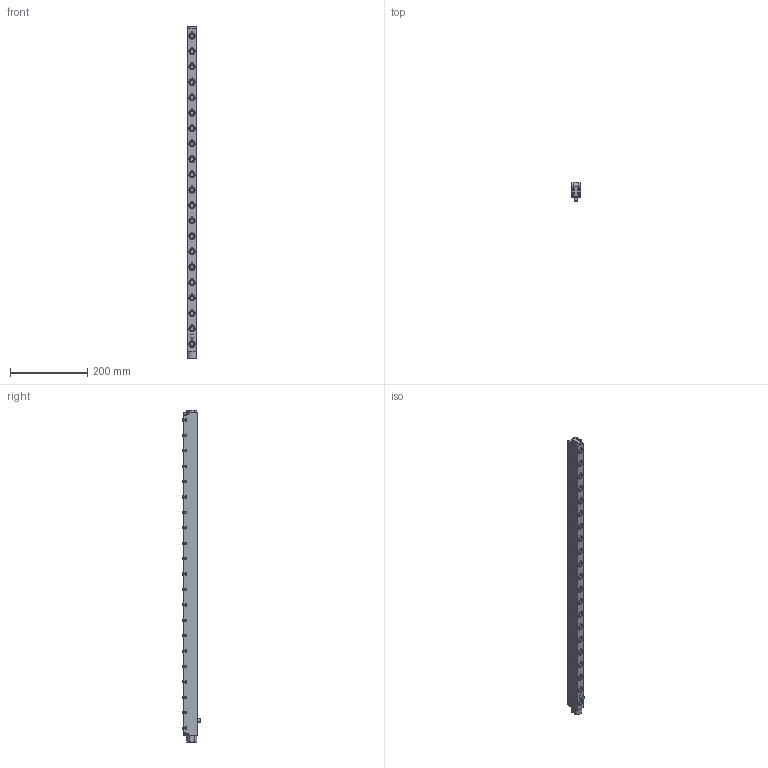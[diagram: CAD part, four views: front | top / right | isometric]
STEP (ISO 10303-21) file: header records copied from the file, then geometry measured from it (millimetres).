
FILE_DESCRIPTION(/* description */ (''),/* implementation_level */ '2;1');
FILE_NAME(/* name */ 'S:\EASCN Vault\Designs\Standard Part\DIE LIFTERS\EHR\EHR- 3D step\EHR22 - 3D step complete serie\EHR22-21.stp',/* time_stamp */ '2019-07-30T16:26:57+08:00',/* author */ ('yue.yang'),/* organization */ (''),/* preprocessor_version */ 'ST-DEVELOPER v17',/* originating_system */ 'Autodesk Inventor 2019',/* authorisation */ '');
FILE_SCHEMA (('AUTOMOTIVE_DESIGN { 1 0 10303 214 3 1 1 }'));
Length unit declared in the file: millimetre
Products named in the file (1): EHR22-21_Shrinkwrap_1
Bounding box: 21.8 x 48.05 x 862 mm (x, y, z)
Volume: 523648.3 mm3; surface area: 204945.2 mm2
Topology: 22 solids, 22 shells, 1253 faces, 3605 edges, 2512 vertices
Faces by surface type: cylinder 420, plane 342, cone 238, torus 210, sphere 43
Full cylindrical faces by diameter (mm): 3 x9, 3.2 x8, 4 x8, 5 x84, 6 x30, 8.566 x1, 10 x3, 11 x21, 12.5 x42, 13.4 x21, 13.8 x21, 15.95 x42, 16 x42
Entity records: 46693 total; most frequent: CARTESIAN_POINT 10791, DIRECTION 7967, ORIENTED_EDGE 7152, EDGE_CURVE 3576, AXIS2_PLACEMENT_3D 3528, VERTEX_POINT 2512, CIRCLE 2274, EDGE_LOOP 1498
